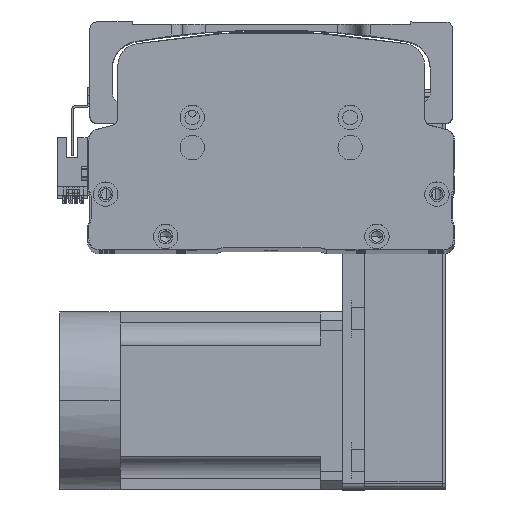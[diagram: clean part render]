
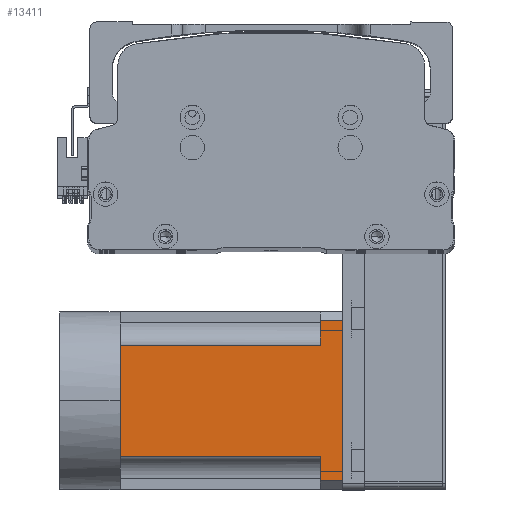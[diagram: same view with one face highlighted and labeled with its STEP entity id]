
A CAD part, top view. The second image highlights one B-rep face of the part: STEP entity #13411.
In plain terms, the highlighted planar face has unit normal (0, 0, 1) as drawn and (0, 0, -1) by its records, which use the part's own axes.
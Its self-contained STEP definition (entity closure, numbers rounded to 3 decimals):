
#209 = CARTESIAN_POINT ( 'NONE',  ( 36., 90., -40. ) ) ;
#1197 = VERTEX_POINT ( 'NONE', #209 ) ;
#1547 = CARTESIAN_POINT ( 'NONE',  ( -40., 0., -40. ) ) ;
#1864 = DIRECTION ( 'NONE',  ( -1., 0., 0. ) ) ;
#2354 = EDGE_CURVE ( 'NONE', #54500, #30462, #33896, .T. ) ;
#5089 = LINE ( 'NONE', #1547, #16618 ) ;
#6121 = AXIS2_PLACEMENT_3D ( 'NONE', #56168, #21685, #36525 ) ;
#6192 = CARTESIAN_POINT ( 'NONE',  ( -40., 90., -40. ) ) ;
#6490 = ORIENTED_EDGE ( 'NONE', *, *, #2354, .T. ) ;
#7119 = CARTESIAN_POINT ( 'NONE',  ( 25., 90., -40. ) ) ;
#9446 = CARTESIAN_POINT ( 'NONE',  ( -40., 90., -40. ) ) ;
#9524 = VERTEX_POINT ( 'NONE', #31347 ) ;
#11766 = VERTEX_POINT ( 'NONE', #31826 ) ;
#13048 = LINE ( 'NONE', #30851, #46136 ) ;
#13411 = ADVANCED_FACE ( 'NONE', ( #28200 ), #31557, .T. ) ;
#14404 = DIRECTION ( 'NONE',  ( -1., 0., 0. ) ) ;
#16143 = DIRECTION ( 'NONE',  ( 0., -1., 0. ) ) ;
#16232 = CARTESIAN_POINT ( 'NONE',  ( -36., -27., -40. ) ) ;
#16618 = VECTOR ( 'NONE', #40987, 1000. ) ;
#16679 = LINE ( 'NONE', #47966, #54533 ) ;
#16756 = CARTESIAN_POINT ( 'NONE',  ( 0., 0., -40. ) ) ;
#17120 = VERTEX_POINT ( 'NONE', #7119 ) ;
#19230 = EDGE_CURVE ( 'NONE', #43697, #26669, #13048, .T. ) ;
#20788 = VECTOR ( 'NONE', #43098, 1000. ) ;
#21295 = DIRECTION ( 'NONE',  ( -1., 0., 0. ) ) ;
#21685 = DIRECTION ( 'NONE',  ( 0., 0., -1. ) ) ;
#21890 = VECTOR ( 'NONE', #16143, 1000. ) ;
#22390 = ORIENTED_EDGE ( 'NONE', *, *, #44663, .T. ) ;
#24946 = EDGE_CURVE ( 'NONE', #17120, #54500, #16679, .T. ) ;
#25005 = ORIENTED_EDGE ( 'NONE', *, *, #54047, .T. ) ;
#25288 = EDGE_CURVE ( 'NONE', #30462, #43697, #5089, .T. ) ;
#25628 = LINE ( 'NONE', #9446, #50317 ) ;
#25905 = CARTESIAN_POINT ( 'NONE',  ( 25., 0., -40. ) ) ;
#26669 = VERTEX_POINT ( 'NONE', #34974 ) ;
#26905 = VECTOR ( 'NONE', #1864, 1000. ) ;
#28200 = FACE_OUTER_BOUND ( 'NONE', #35602, .T. ) ;
#29403 = ORIENTED_EDGE ( 'NONE', *, *, #24946, .T. ) ;
#30117 = EDGE_CURVE ( 'NONE', #1197, #17120, #25628, .T. ) ;
#30462 = VERTEX_POINT ( 'NONE', #16756 ) ;
#30804 = CARTESIAN_POINT ( 'NONE',  ( 36., -27., -40. ) ) ;
#30851 = CARTESIAN_POINT ( 'NONE',  ( -25., -27., -40. ) ) ;
#31347 = CARTESIAN_POINT ( 'NONE',  ( -36., 100., -40. ) ) ;
#31557 = PLANE ( 'NONE',  #6121 ) ;
#31826 = CARTESIAN_POINT ( 'NONE',  ( 36., 100., -40. ) ) ;
#33795 = ORIENTED_EDGE ( 'NONE', *, *, #19230, .T. ) ;
#33896 = LINE ( 'NONE', #62673, #20788 ) ;
#34347 = ORIENTED_EDGE ( 'NONE', *, *, #55426, .F. ) ;
#34958 = LINE ( 'NONE', #30804, #21890 ) ;
#34974 = CARTESIAN_POINT ( 'NONE',  ( -25., 90., -40. ) ) ;
#35602 = EDGE_LOOP ( 'NONE', ( #34347, #62382, #48979, #29403, #6490, #36554, #33795, #22390, #25005 ) ) ;
#36339 = VECTOR ( 'NONE', #55701, 1000. ) ;
#36525 = DIRECTION ( 'NONE',  ( -1., 0., 0. ) ) ;
#36554 = ORIENTED_EDGE ( 'NONE', *, *, #25288, .T. ) ;
#36967 = VECTOR ( 'NONE', #21295, 1000. ) ;
#39994 = LINE ( 'NONE', #41313, #26905 ) ;
#40962 = CARTESIAN_POINT ( 'NONE',  ( -36., 90., -40. ) ) ;
#40987 = DIRECTION ( 'NONE',  ( -1., 0., 0. ) ) ;
#41313 = CARTESIAN_POINT ( 'NONE',  ( -40., 100., -40. ) ) ;
#42774 = EDGE_CURVE ( 'NONE', #11766, #1197, #34958, .T. ) ;
#43098 = DIRECTION ( 'NONE',  ( -1., 0., 0. ) ) ;
#43231 = DIRECTION ( 'NONE',  ( 0., -1., 0. ) ) ;
#43697 = VERTEX_POINT ( 'NONE', #48817 ) ;
#44663 = EDGE_CURVE ( 'NONE', #26669, #47035, #50118, .T. ) ;
#46136 = VECTOR ( 'NONE', #55656, 1000. ) ;
#47035 = VERTEX_POINT ( 'NONE', #40962 ) ;
#47966 = CARTESIAN_POINT ( 'NONE',  ( 25., -27., -40. ) ) ;
#48817 = CARTESIAN_POINT ( 'NONE',  ( -25., 0., -40. ) ) ;
#48979 = ORIENTED_EDGE ( 'NONE', *, *, #30117, .T. ) ;
#50118 = LINE ( 'NONE', #6192, #36967 ) ;
#50317 = VECTOR ( 'NONE', #14404, 1000. ) ;
#51017 = LINE ( 'NONE', #16232, #36339 ) ;
#54047 = EDGE_CURVE ( 'NONE', #47035, #9524, #51017, .T. ) ;
#54500 = VERTEX_POINT ( 'NONE', #25905 ) ;
#54533 = VECTOR ( 'NONE', #43231, 1000. ) ;
#55426 = EDGE_CURVE ( 'NONE', #11766, #9524, #39994, .T. ) ;
#55656 = DIRECTION ( 'NONE',  ( 0., 1., 0. ) ) ;
#55701 = DIRECTION ( 'NONE',  ( 0., 1., 0. ) ) ;
#56168 = CARTESIAN_POINT ( 'NONE',  ( -40., -27., -40. ) ) ;
#62382 = ORIENTED_EDGE ( 'NONE', *, *, #42774, .T. ) ;
#62673 = CARTESIAN_POINT ( 'NONE',  ( -40., 0., -40. ) ) ;
